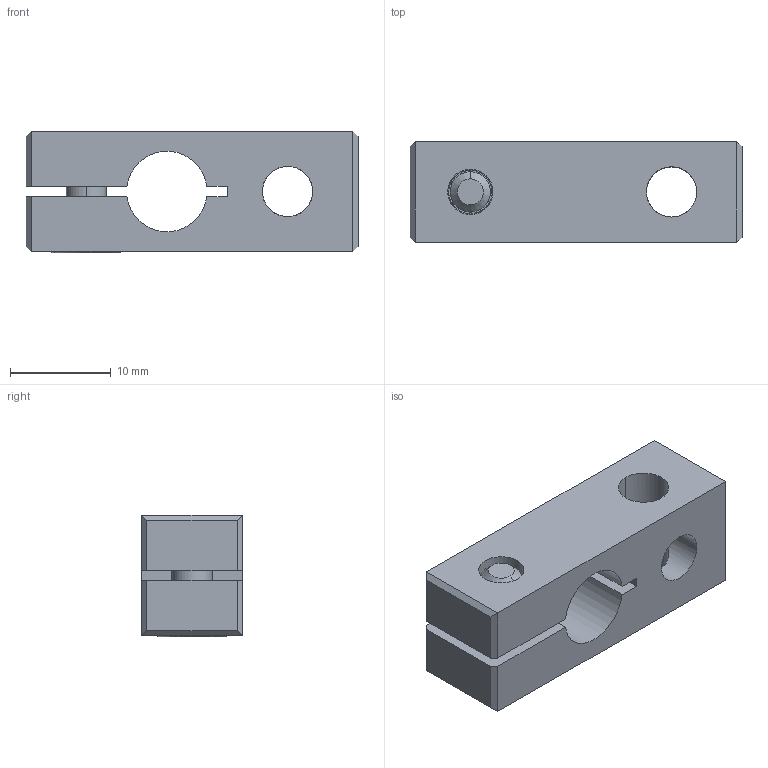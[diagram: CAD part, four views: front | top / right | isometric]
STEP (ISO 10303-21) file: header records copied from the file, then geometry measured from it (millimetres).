
FILE_DESCRIPTION (( 'STEP AP214' ), '1' );
FILE_NAME ('SMBG1-8M6.STEP', '2019-11-06T07:26:58', ( '微软用户' ), ( '微软中国' ), 'SwSTEP 2.0', 'SolidWorks 2016', '' );
FILE_SCHEMA (( 'AUTOMOTIVE_DESIGN' ));
Length unit declared in the file: millimetre
Products named in the file (1): SMBG1-8M6
Bounding box: 33 x 10 x 12.1 mm (x, y, z)
Volume: 2891.8 mm3; surface area: 2684.3 mm2
Topology: 3 solids, 3 shells, 253 faces, 717 edges, 469 vertices
Faces by surface type: plane 225, cylinder 24, cone 2, bspline 2
Entity records: 11185 total; most frequent: CARTESIAN_POINT 1585, DIRECTION 1436, ORIENTED_EDGE 1434, EDGE_CURVE 717, VECTOR 480, LINE 480, AXIS2_PLACEMENT_3D 478, VERTEX_POINT 469
